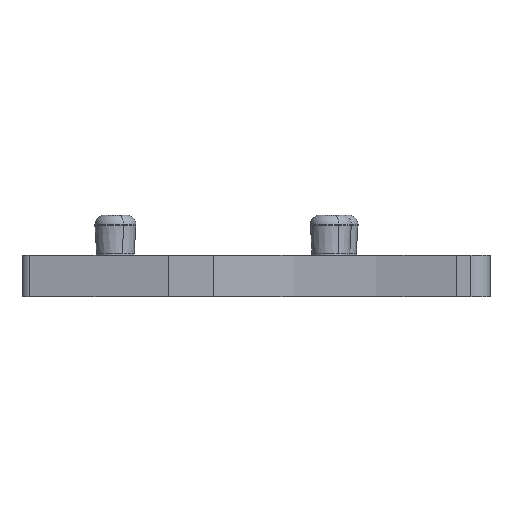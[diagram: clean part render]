
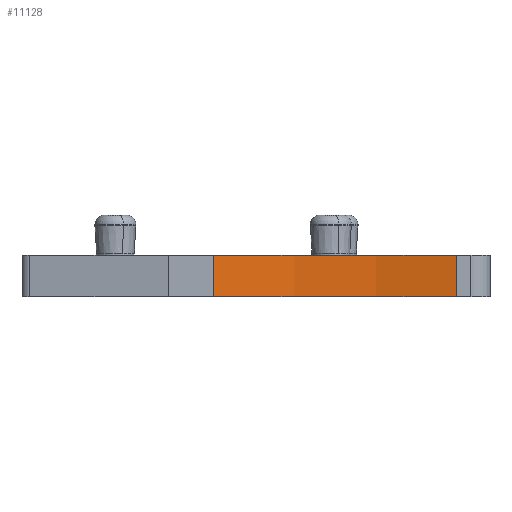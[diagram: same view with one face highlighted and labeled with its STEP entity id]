
A CAD part, left-side view. The second image highlights one B-rep face of the part: STEP entity #11128.
In plain terms, the highlighted cylindrical face has radius 25 mm (diameter 50 mm), a partial arc.
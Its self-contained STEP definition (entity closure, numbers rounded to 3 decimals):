
#11128 = ADVANCED_FACE('',(#11129),#11143,.F.);
#11129 = FACE_BOUND('',#11130,.F.);
#11130 = EDGE_LOOP('',(#11131,#11153,#11169,#11184));
#11131 = ORIENTED_EDGE('',*,*,#11132,.F.);
#11132 = EDGE_CURVE('',#11133,#11135,#11137,.T.);
#11133 = VERTEX_POINT('',#11134);
#11134 = CARTESIAN_POINT('',(-52.909,14.361,2.2));
#11135 = VERTEX_POINT('',#11136);
#11136 = CARTESIAN_POINT('',(-52.909,14.361,0.));
#11137 = SURFACE_CURVE('',#11138,(#11142),.PCURVE_S1.);
#11138 = LINE('',#11139,#11140);
#11139 = CARTESIAN_POINT('',(-52.909,14.361,2.2));
#11140 = VECTOR('',#11141,1.);
#11141 = DIRECTION('',(0.,0.,-1.));
#11142 = PCURVE('',#11143,#11148);
#11143 = CYLINDRICAL_SURFACE('',#11144,25.);
#11144 = AXIS2_PLACEMENT_3D('',#11145,#11146,#11147);
#11145 = CARTESIAN_POINT('',(-77.109,8.087,2.2));
#11146 = DIRECTION('',(0.,0.,-1.));
#11147 = DIRECTION('',(1.,0.,0.));
#11148 = DEFINITIONAL_REPRESENTATION('',(#11149),#11152);
#11149 = B_SPLINE_CURVE_WITH_KNOTS('',1,(#11150,#11151),.UNSPECIFIED.,
  .F.,.F.,(2,2),(0.,2.2),.PIECEWISE_BEZIER_KNOTS.);
#11150 = CARTESIAN_POINT('',(-0.254,0.));
#11151 = CARTESIAN_POINT('',(-0.254,2.2));
#11152 = ( GEOMETRIC_REPRESENTATION_CONTEXT(2) 
PARAMETRIC_REPRESENTATION_CONTEXT() REPRESENTATION_CONTEXT('2D SPACE',''
  ) );
#11153 = ORIENTED_EDGE('',*,*,#11154,.F.);
#11154 = EDGE_CURVE('',#11155,#11133,#11157,.T.);
#11155 = VERTEX_POINT('',#11156);
#11156 = CARTESIAN_POINT('',(-52.959,1.623,2.2));
#11157 = SURFACE_CURVE('',#11158,(#11163),.PCURVE_S1.);
#11158 = CIRCLE('',#11159,25.);
#11159 = AXIS2_PLACEMENT_3D('',#11160,#11161,#11162);
#11160 = CARTESIAN_POINT('',(-77.109,8.087,2.2));
#11161 = DIRECTION('',(0.,0.,1.));
#11162 = DIRECTION('',(1.,0.,0.));
#11163 = PCURVE('',#11143,#11164);
#11164 = DEFINITIONAL_REPRESENTATION('',(#11165),#11168);
#11165 = B_SPLINE_CURVE_WITH_KNOTS('',1,(#11166,#11167),.UNSPECIFIED.,
  .F.,.F.,(2,2),(6.022,6.537),
  .PIECEWISE_BEZIER_KNOTS.);
#11166 = CARTESIAN_POINT('',(0.262,0.));
#11167 = CARTESIAN_POINT('',(-0.254,0.));
#11168 = ( GEOMETRIC_REPRESENTATION_CONTEXT(2) 
PARAMETRIC_REPRESENTATION_CONTEXT() REPRESENTATION_CONTEXT('2D SPACE',''
  ) );
#11169 = ORIENTED_EDGE('',*,*,#11170,.T.);
#11170 = EDGE_CURVE('',#11155,#11171,#11173,.T.);
#11171 = VERTEX_POINT('',#11172);
#11172 = CARTESIAN_POINT('',(-52.959,1.623,0.));
#11173 = SURFACE_CURVE('',#11174,(#11178),.PCURVE_S1.);
#11174 = LINE('',#11175,#11176);
#11175 = CARTESIAN_POINT('',(-52.959,1.623,2.2));
#11176 = VECTOR('',#11177,1.);
#11177 = DIRECTION('',(0.,0.,-1.));
#11178 = PCURVE('',#11143,#11179);
#11179 = DEFINITIONAL_REPRESENTATION('',(#11180),#11183);
#11180 = B_SPLINE_CURVE_WITH_KNOTS('',1,(#11181,#11182),.UNSPECIFIED.,
  .F.,.F.,(2,2),(0.,2.2),.PIECEWISE_BEZIER_KNOTS.);
#11181 = CARTESIAN_POINT('',(0.262,0.));
#11182 = CARTESIAN_POINT('',(0.262,2.2));
#11183 = ( GEOMETRIC_REPRESENTATION_CONTEXT(2) 
PARAMETRIC_REPRESENTATION_CONTEXT() REPRESENTATION_CONTEXT('2D SPACE',''
  ) );
#11184 = ORIENTED_EDGE('',*,*,#11185,.T.);
#11185 = EDGE_CURVE('',#11171,#11135,#11186,.T.);
#11186 = SURFACE_CURVE('',#11187,(#11192),.PCURVE_S1.);
#11187 = CIRCLE('',#11188,25.);
#11188 = AXIS2_PLACEMENT_3D('',#11189,#11190,#11191);
#11189 = CARTESIAN_POINT('',(-77.109,8.087,0.));
#11190 = DIRECTION('',(0.,0.,1.));
#11191 = DIRECTION('',(1.,0.,0.));
#11192 = PCURVE('',#11143,#11193);
#11193 = DEFINITIONAL_REPRESENTATION('',(#11194),#11197);
#11194 = B_SPLINE_CURVE_WITH_KNOTS('',1,(#11195,#11196),.UNSPECIFIED.,
  .F.,.F.,(2,2),(6.022,6.537),
  .PIECEWISE_BEZIER_KNOTS.);
#11195 = CARTESIAN_POINT('',(0.262,2.2));
#11196 = CARTESIAN_POINT('',(-0.254,2.2));
#11197 = ( GEOMETRIC_REPRESENTATION_CONTEXT(2) 
PARAMETRIC_REPRESENTATION_CONTEXT() REPRESENTATION_CONTEXT('2D SPACE',''
  ) );
